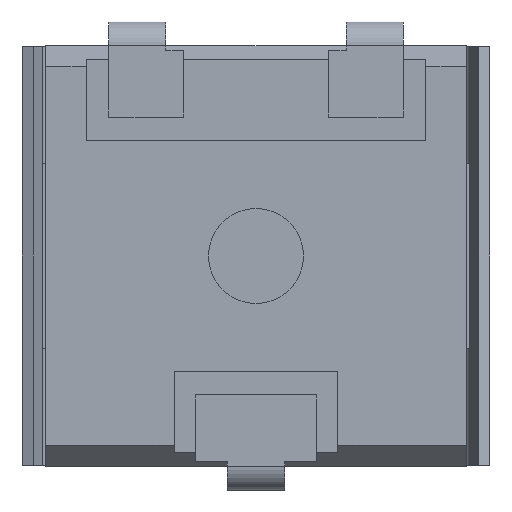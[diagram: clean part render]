
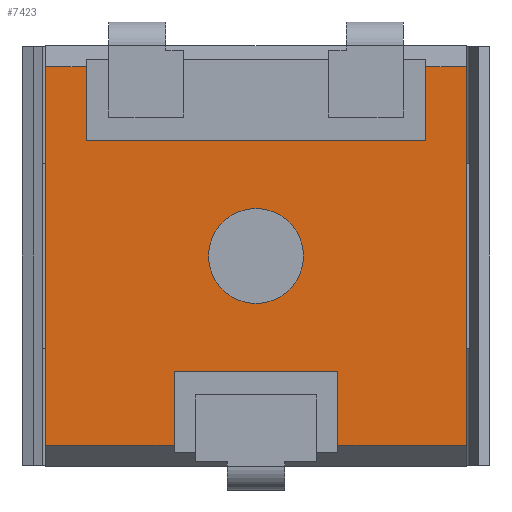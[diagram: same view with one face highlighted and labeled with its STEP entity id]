
A CAD part, front view. The second image highlights one B-rep face of the part: STEP entity #7423.
In plain terms, the highlighted planar face has unit normal (0, -1, 0).
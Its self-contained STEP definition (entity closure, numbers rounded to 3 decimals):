
#299=CIRCLE('',#7833,0.508);
#300=CIRCLE('',#7835,0.508);
#799=ORIENTED_EDGE('',*,*,#2869,.F.);
#800=ORIENTED_EDGE('',*,*,#2868,.F.);
#801=ORIENTED_EDGE('',*,*,#2864,.F.);
#802=ORIENTED_EDGE('',*,*,#2863,.T.);
#803=ORIENTED_EDGE('',*,*,#2859,.T.);
#804=ORIENTED_EDGE('',*,*,#2927,.F.);
#805=ORIENTED_EDGE('',*,*,#2928,.T.);
#806=ORIENTED_EDGE('',*,*,#2929,.T.);
#807=ORIENTED_EDGE('',*,*,#2871,.F.);
#808=ORIENTED_EDGE('',*,*,#2858,.T.);
#809=ORIENTED_EDGE('',*,*,#2875,.T.);
#810=ORIENTED_EDGE('',*,*,#2930,.T.);
#811=ORIENTED_EDGE('',*,*,#2931,.T.);
#812=ORIENTED_EDGE('',*,*,#2923,.F.);
#2858=EDGE_CURVE('',#3955,#3957,#4721,.T.);
#2859=EDGE_CURVE('',#3958,#3959,#4722,.T.);
#2863=EDGE_CURVE('',#3960,#3958,#4726,.T.);
#2864=EDGE_CURVE('',#3960,#3961,#4727,.T.);
#2868=EDGE_CURVE('',#3963,#3962,#299,.T.);
#2869=EDGE_CURVE('',#3962,#3963,#300,.T.);
#2871=EDGE_CURVE('',#3955,#3965,#4732,.T.);
#2875=EDGE_CURVE('',#3957,#3967,#4736,.T.);
#2923=EDGE_CURVE('',#3961,#4000,#4768,.T.);
#2927=EDGE_CURVE('',#4003,#3959,#4772,.T.);
#2928=EDGE_CURVE('',#4003,#4004,#4773,.T.);
#2929=EDGE_CURVE('',#4004,#3965,#4774,.T.);
#2930=EDGE_CURVE('',#3967,#4005,#4775,.T.);
#2931=EDGE_CURVE('',#4005,#4000,#4776,.T.);
#3955=VERTEX_POINT('',#10604);
#3957=VERTEX_POINT('',#10608);
#3958=VERTEX_POINT('',#10612);
#3959=VERTEX_POINT('',#10613);
#3960=VERTEX_POINT('',#10618);
#3961=VERTEX_POINT('',#10622);
#3962=VERTEX_POINT('',#10626);
#3963=VERTEX_POINT('',#10628);
#3965=VERTEX_POINT('',#10636);
#3967=VERTEX_POINT('',#10644);
#4000=VERTEX_POINT('',#10745);
#4003=VERTEX_POINT('',#10751);
#4004=VERTEX_POINT('',#10755);
#4005=VERTEX_POINT('',#10758);
#4721=LINE('',#10609,#5492);
#4722=LINE('',#10611,#5493);
#4726=LINE('',#10619,#5497);
#4727=LINE('',#10621,#5498);
#4732=LINE('',#10635,#5503);
#4736=LINE('',#10643,#5507);
#4768=LINE('',#10744,#5539);
#4772=LINE('',#10752,#5543);
#4773=LINE('',#10754,#5544);
#4774=LINE('',#10756,#5545);
#4775=LINE('',#10757,#5546);
#4776=LINE('',#10759,#5547);
#5492=VECTOR('',#8598,1000.);
#5493=VECTOR('',#8601,1000.);
#5497=VECTOR('',#8607,1000.);
#5498=VECTOR('',#8610,1000.);
#5503=VECTOR('',#8625,1000.);
#5507=VECTOR('',#8633,1000.);
#5539=VECTOR('',#8737,1000.);
#5543=VECTOR('',#8741,1000.);
#5544=VECTOR('',#8744,1000.);
#5545=VECTOR('',#8745,1000.);
#5546=VECTOR('',#8746,1000.);
#5547=VECTOR('',#8747,1000.);
#6230=EDGE_LOOP('',(#799,#800));
#6231=EDGE_LOOP('',(#801,#802,#803,#804,#805,#806,#807,#808,#809,#810,#811,
#812));
#6666=FACE_BOUND('',#6230,.T.);
#6667=FACE_BOUND('',#6231,.T.);
#7088=PLANE('',#7875);
#7423=ADVANCED_FACE('',(#6666,#6667),#7088,.F.);
#7833=AXIS2_PLACEMENT_3D('',#10629,#8616,#8617);
#7835=AXIS2_PLACEMENT_3D('',#10631,#8620,#8621);
#7875=AXIS2_PLACEMENT_3D('',#10753,#8742,#8743);
#8598=DIRECTION('',(-1.,0.,0.));
#8601=DIRECTION('',(0.,0.,-1.));
#8607=DIRECTION('',(1.,0.,0.));
#8610=DIRECTION('',(0.,0.,-1.));
#8616=DIRECTION('',(0.,-1.,0.));
#8617=DIRECTION('',(-1.,0.,0.));
#8620=DIRECTION('',(0.,-1.,0.));
#8621=DIRECTION('',(1.,0.,0.));
#8625=DIRECTION('',(0.,0.,1.));
#8633=DIRECTION('',(0.,0.,1.));
#8737=DIRECTION('',(-1.,0.,0.));
#8741=DIRECTION('',(-1.,0.,0.));
#8742=DIRECTION('',(0.,1.,0.));
#8743=DIRECTION('',(1.,0.,0.));
#8744=DIRECTION('',(0.,0.,1.));
#8745=DIRECTION('',(-1.,0.,0.));
#8746=DIRECTION('',(-1.,0.,0.));
#8747=DIRECTION('',(0.,0.,-1.));
#10604=CARTESIAN_POINT('',(1.816,0.,1.234));
#10608=CARTESIAN_POINT('',(-1.816,0.,1.234));
#10609=CARTESIAN_POINT('',(1.816,0.,1.234));
#10611=CARTESIAN_POINT('',(0.876,0.,-1.234));
#10612=CARTESIAN_POINT('',(0.876,0.,-1.234));
#10613=CARTESIAN_POINT('',(0.876,0.,-2.021));
#10618=CARTESIAN_POINT('',(-0.876,0.,-1.234));
#10619=CARTESIAN_POINT('',(-0.876,0.,-1.234));
#10621=CARTESIAN_POINT('',(-0.876,0.,-1.234));
#10622=CARTESIAN_POINT('',(-0.876,0.,-2.021));
#10626=CARTESIAN_POINT('',(0.508,0.,0.));
#10628=CARTESIAN_POINT('',(-0.508,0.,0.));
#10629=CARTESIAN_POINT('',(0.,0.,0.));
#10631=CARTESIAN_POINT('',(0.,0.,0.));
#10635=CARTESIAN_POINT('',(1.816,0.,1.234));
#10636=CARTESIAN_POINT('',(1.816,0.,2.021));
#10643=CARTESIAN_POINT('',(-1.816,0.,1.234));
#10644=CARTESIAN_POINT('',(-1.816,0.,2.021));
#10744=CARTESIAN_POINT('',(-0.876,0.,-2.021));
#10745=CARTESIAN_POINT('',(-2.248,0.,-2.021));
#10751=CARTESIAN_POINT('',(2.248,0.,-2.021));
#10752=CARTESIAN_POINT('',(2.248,0.,-2.021));
#10753=CARTESIAN_POINT('',(0.,0.,0.));
#10754=CARTESIAN_POINT('',(2.248,0.,-2.021));
#10755=CARTESIAN_POINT('',(2.248,0.,2.021));
#10756=CARTESIAN_POINT('',(2.248,0.,2.021));
#10757=CARTESIAN_POINT('',(-1.816,0.,2.021));
#10758=CARTESIAN_POINT('',(-2.248,0.,2.021));
#10759=CARTESIAN_POINT('',(-2.248,0.,2.021));
